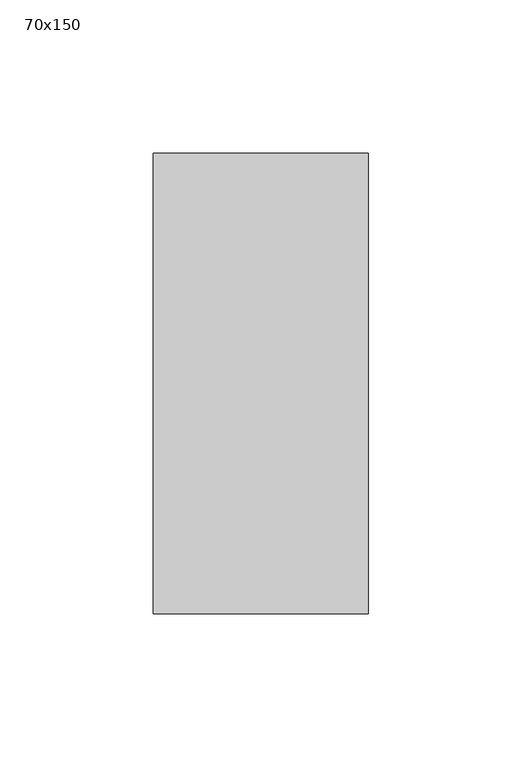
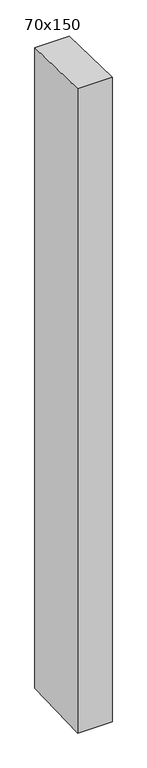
"""IFC4 building model written with IfcOpenShell, lengths in millimetres: member geometry, 長方形のマリオン : 70x150."""

from ifc_helpers import new_model, si_unit, frame, origin, place, context, project, spatial, polyline, outline, extrude, source, transform, mapped, element, save


def member_70x150_7b6bfe59(model_context):
    return source(origin(), model_context, "Body", "SweptSolid", [
        extrude(outline(polyline([(-75.0, 1.3778058), (75.0, -1.3778058), (75.0, -1377.4847874), (-75.0, -1382.2729929), (-75.0, 1.3778058)])), frame((-35.0, 0.0, 0.0), z_axis=(1.0, 0.0, 0.0), x_axis=(0.0, 1.0, 0.0)), (0.0, 0.0, 1.0), 70.0),
    ])


if __name__ == "__main__":
    model = new_model("IFC4")
    model_context = context("Model", 3, world=origin())
    ifc_project = project(units=[si_unit("LENGTHUNIT", "METRE", prefix="MILLI")], contexts=[model_context])
    site = spatial("IfcSite", under=ifc_project)
    building = spatial("IfcBuilding", under=site)
    placement = place(None, origin())
    member_70x150_shape = member_70x150_7b6bfe59(model_context)
    element("IfcMember", 1, ObjectType="長方形のマリオン : 70x150", at=placement, inside=building, context=model_context, shape_type="MappedRepresentation", body=[
        mapped(member_70x150_shape, transform((0.0, 0.0, 0.0), x_axis=(1.0, 0.0, 0.0), y_axis=(0.0, 1.0, 0.0), z_axis=(0.0, 0.0, 1.0))),
    ])
    save(model, "model.ifc")
